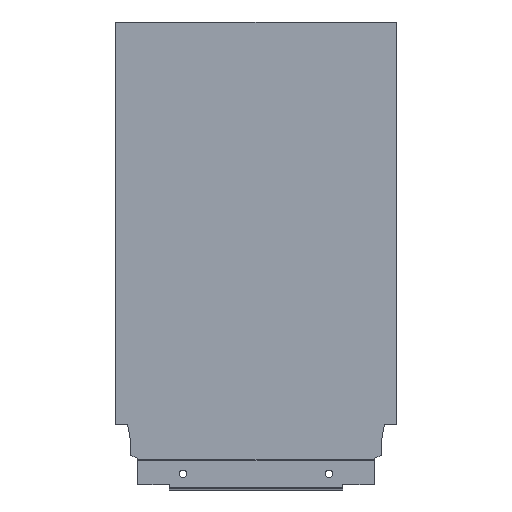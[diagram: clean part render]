
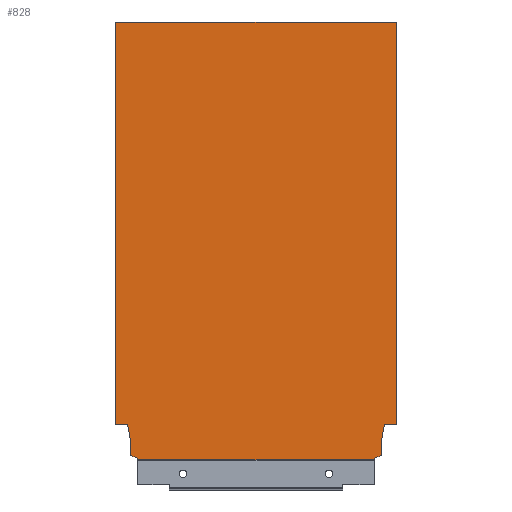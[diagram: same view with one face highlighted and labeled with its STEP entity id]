
A CAD part, top view. The second image highlights one B-rep face of the part: STEP entity #828.
In plain terms, the highlighted planar face has unit normal (0, 0, 1).
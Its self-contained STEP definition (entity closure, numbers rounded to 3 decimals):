
#47 = EDGE_CURVE ( 'NONE', #768, #751, #1008, .T. ) ;
#54 = EDGE_CURVE ( 'NONE', #768, #757, #1009, .T. ) ;
#59 = EDGE_CURVE ( 'NONE', #735, #732, #976, .T. ) ;
#62 = AXIS2_PLACEMENT_3D ( 'NONE', #351, #347, #345 ) ;
#80 = EDGE_CURVE ( 'NONE', #750, #757, #946, .T. ) ;
#83 = EDGE_CURVE ( 'NONE', #781, #773, #942, .T. ) ;
#94 = EDGE_CURVE ( 'NONE', #744, #731, #930, .T. ) ;
#114 = EDGE_CURVE ( 'NONE', #745, #813, #911, .T. ) ;
#150 = EDGE_CURVE ( 'NONE', #751, #745, #870, .T. ) ;
#157 = EDGE_CURVE ( 'NONE', #771, #731, #1457, .T. ) ;
#159 = EDGE_CURVE ( 'NONE', #763, #781, #1461, .T. ) ;
#167 = EDGE_CURVE ( 'NONE', #773, #735, #992, .T. ) ;
#170 = EDGE_CURVE ( 'NONE', #813, #771, #994, .T. ) ;
#178 = EDGE_CURVE ( 'NONE', #744, #763, #996, .T. ) ;
#183 = EDGE_CURVE ( 'NONE', #732, #750, #1398, .T. ) ;
#207 = CARTESIAN_POINT ( 'NONE',  ( -158.1, 2.64, 8. ) ) ;
#223 = CARTESIAN_POINT ( 'NONE',  ( -167., 0., 8. ) ) ;
#237 = DIRECTION ( 'NONE',  ( -1., 0., 0. ) ) ;
#238 = CARTESIAN_POINT ( 'NONE',  ( 0., 21.2, 8. ) ) ;
#242 = DIRECTION ( 'NONE',  ( 0., -1., 0. ) ) ;
#243 = CARTESIAN_POINT ( 'NONE',  ( -13.004, 1.146, 8. ) ) ;
#259 = DIRECTION ( 'NONE',  ( 0., -1., 0. ) ) ;
#260 = CARTESIAN_POINT ( 'NONE',  ( -8.9, 10.765, 8. ) ) ;
#272 = DIRECTION ( 'NONE',  ( 1., 0., 0. ) ) ;
#274 = CARTESIAN_POINT ( 'NONE',  ( -167., 0., 8. ) ) ;
#284 = DIRECTION ( 'NONE',  ( 0., 1., 0. ) ) ;
#308 = CARTESIAN_POINT ( 'NONE',  ( -158.1, 10.765, 8. ) ) ;
#314 = DIRECTION ( 'NONE',  ( 0., 1., 0. ) ) ;
#316 = CARTESIAN_POINT ( 'NONE',  ( -153.996, 1.146, 8. ) ) ;
#345 = DIRECTION ( 'NONE',  ( 1., 0., 0. ) ) ;
#347 = DIRECTION ( 'NONE',  ( 0., 0., 1. ) ) ;
#351 = CARTESIAN_POINT ( 'NONE',  ( -167., 0., 8. ) ) ;
#366 = PLANE ( 'NONE',  #62 ) ;
#412 = CARTESIAN_POINT ( 'NONE',  ( -158.1, 10.765, 8. ) ) ;
#427 = DIRECTION ( 'NONE',  ( 0., -1., 0. ) ) ;
#439 = CARTESIAN_POINT ( 'NONE',  ( 0., 21.2, 8. ) ) ;
#465 = CARTESIAN_POINT ( 'NONE',  ( -13.004, 0., 8. ) ) ;
#468 = CARTESIAN_POINT ( 'NONE',  ( -8.9, 10.765, 8. ) ) ;
#471 = DIRECTION ( 'NONE',  ( -0.94, -0.342, 0. ) ) ;
#472 = CARTESIAN_POINT ( 'NONE',  ( -8.9, 2.64, 8. ) ) ;
#477 = CARTESIAN_POINT ( 'NONE',  ( -167., 21.2, 8. ) ) ;
#480 = CARTESIAN_POINT ( 'NONE',  ( -8.9, 2.64, 8. ) ) ;
#488 = CARTESIAN_POINT ( 'NONE',  ( -158.1, 2.64, 8. ) ) ;
#489 = CARTESIAN_POINT ( 'NONE',  ( -167., 260.7, 8. ) ) ;
#495 = CARTESIAN_POINT ( 'NONE',  ( -153.996, 1.146, 8. ) ) ;
#496 = CARTESIAN_POINT ( 'NONE',  ( -13.004, 1.146, 8. ) ) ;
#502 = CARTESIAN_POINT ( 'NONE',  ( -159.94, 21.2, 8. ) ) ;
#503 = CARTESIAN_POINT ( 'NONE',  ( -7.06, 21.2, 8. ) ) ;
#505 = CARTESIAN_POINT ( 'NONE',  ( 0., 260.7, 8. ) ) ;
#512 = CARTESIAN_POINT ( 'NONE',  ( -153.996, 0., 8. ) ) ;
#516 = DIRECTION ( 'NONE',  ( 1., 0., 0. ) ) ;
#520 = CARTESIAN_POINT ( 'NONE',  ( -167., 260.7, 8. ) ) ;
#529 = DIRECTION ( 'NONE',  ( -0.94, 0.342, 0. ) ) ;
#530 = CARTESIAN_POINT ( 'NONE',  ( -172., 21.2, 8. ) ) ;
#531 = DIRECTION ( 'NONE',  ( -1., 0., 0. ) ) ;
#532 = CARTESIAN_POINT ( 'NONE',  ( 0., 0., 8. ) ) ;
#533 = DIRECTION ( 'NONE',  ( 0., -1., 0. ) ) ;
#559 = CARTESIAN_POINT ( 'NONE',  ( -7.06, 21.2, 8. ) ) ;
#560 = DIRECTION ( 'NONE',  ( -0.174, -0.985, 0. ) ) ;
#564 = CARTESIAN_POINT ( 'NONE',  ( -159.94, 21.2, 8. ) ) ;
#565 = DIRECTION ( 'NONE',  ( -0.174, 0.985, 0. ) ) ;
#731 = VERTEX_POINT ( 'NONE', #477 ) ;
#732 = VERTEX_POINT ( 'NONE', #480 ) ;
#735 = VERTEX_POINT ( 'NONE', #468 ) ;
#744 = VERTEX_POINT ( 'NONE', #489 ) ;
#745 = VERTEX_POINT ( 'NONE', #488 ) ;
#750 = VERTEX_POINT ( 'NONE', #496 ) ;
#751 = VERTEX_POINT ( 'NONE', #495 ) ;
#757 = VERTEX_POINT ( 'NONE', #465 ) ;
#763 = VERTEX_POINT ( 'NONE', #505 ) ;
#768 = VERTEX_POINT ( 'NONE', #512 ) ;
#771 = VERTEX_POINT ( 'NONE', #502 ) ;
#773 = VERTEX_POINT ( 'NONE', #503 ) ;
#781 = VERTEX_POINT ( 'NONE', #439 ) ;
#813 = VERTEX_POINT ( 'NONE', #412 ) ;
#828 = ADVANCED_FACE ( 'NONE', ( #1422 ), #366, .T. ) ;
#870 = LINE ( 'NONE', #207, #1459 ) ;
#910 = VECTOR ( 'NONE', #314, 1000. ) ;
#911 = LINE ( 'NONE', #308, #910 ) ;
#929 = VECTOR ( 'NONE', #427, 1000. ) ;
#930 = LINE ( 'NONE', #223, #929 ) ;
#941 = VECTOR ( 'NONE', #237, 1000. ) ;
#942 = LINE ( 'NONE', #238, #941 ) ;
#945 = VECTOR ( 'NONE', #242, 1000. ) ;
#946 = LINE ( 'NONE', #243, #945 ) ;
#975 = VECTOR ( 'NONE', #259, 1000. ) ;
#976 = LINE ( 'NONE', #260, #975 ) ;
#991 = VECTOR ( 'NONE', #560, 1000. ) ;
#992 = LINE ( 'NONE', #559, #991 ) ;
#993 = VECTOR ( 'NONE', #565, 1000. ) ;
#994 = LINE ( 'NONE', #564, #993 ) ;
#996 = LINE ( 'NONE', #520, #1001 ) ;
#1001 = VECTOR ( 'NONE', #516, 1000. ) ;
#1008 = LINE ( 'NONE', #316, #1020 ) ;
#1009 = LINE ( 'NONE', #274, #1014 ) ;
#1014 = VECTOR ( 'NONE', #272, 1000. ) ;
#1020 = VECTOR ( 'NONE', #284, 1000. ) ;
#1163 = ORIENTED_EDGE ( 'NONE', *, *, #150, .F. ) ;
#1164 = ORIENTED_EDGE ( 'NONE', *, *, #114, .F. ) ;
#1165 = ORIENTED_EDGE ( 'NONE', *, *, #170, .F. ) ;
#1166 = ORIENTED_EDGE ( 'NONE', *, *, #157, .F. ) ;
#1167 = ORIENTED_EDGE ( 'NONE', *, *, #94, .T. ) ;
#1169 = ORIENTED_EDGE ( 'NONE', *, *, #47, .F. ) ;
#1176 = ORIENTED_EDGE ( 'NONE', *, *, #80, .F. ) ;
#1179 = ORIENTED_EDGE ( 'NONE', *, *, #54, .T. ) ;
#1183 = ORIENTED_EDGE ( 'NONE', *, *, #83, .F. ) ;
#1184 = ORIENTED_EDGE ( 'NONE', *, *, #159, .F. ) ;
#1189 = ORIENTED_EDGE ( 'NONE', *, *, #178, .F. ) ;
#1199 = ORIENTED_EDGE ( 'NONE', *, *, #183, .F. ) ;
#1200 = ORIENTED_EDGE ( 'NONE', *, *, #59, .F. ) ;
#1201 = ORIENTED_EDGE ( 'NONE', *, *, #167, .F. ) ;
#1289 = EDGE_LOOP ( 'NONE', ( #1167, #1166, #1165, #1164, #1163, #1169, #1179, #1176, #1199, #1200, #1201, #1183, #1184, #1189 ) ) ;
#1398 = LINE ( 'NONE', #472, #1399 ) ;
#1399 = VECTOR ( 'NONE', #471, 1000. ) ;
#1422 = FACE_OUTER_BOUND ( 'NONE', #1289, .T. ) ;
#1457 = LINE ( 'NONE', #530, #1462 ) ;
#1459 = VECTOR ( 'NONE', #529, 1000. ) ;
#1460 = VECTOR ( 'NONE', #533, 1000. ) ;
#1461 = LINE ( 'NONE', #532, #1460 ) ;
#1462 = VECTOR ( 'NONE', #531, 1000. ) ;
